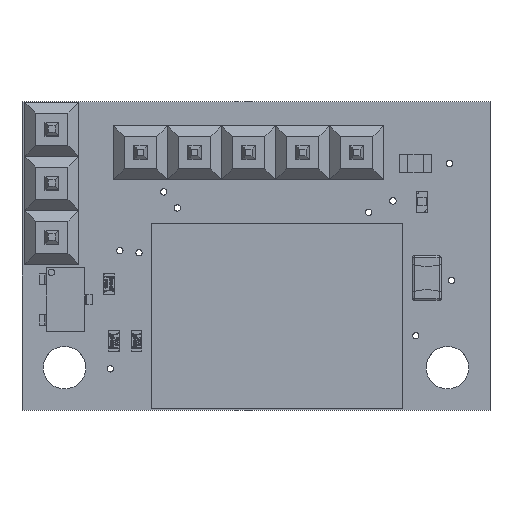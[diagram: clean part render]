
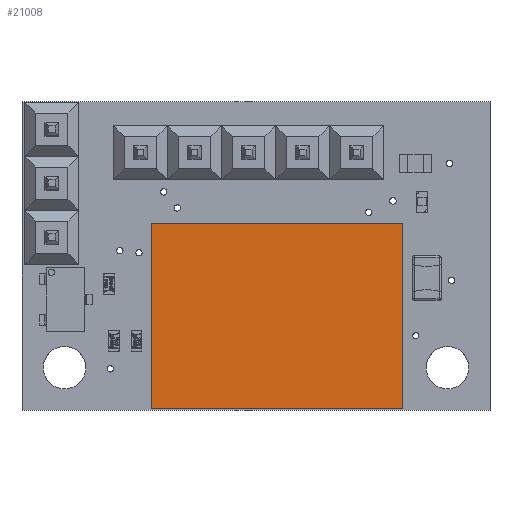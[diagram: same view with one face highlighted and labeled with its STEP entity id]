
A CAD part, top view. The second image highlights one B-rep face of the part: STEP entity #21008.
In plain terms, the highlighted planar face has unit normal (0, 0, 1).
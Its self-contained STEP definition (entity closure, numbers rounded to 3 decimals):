
#812=PLANE('',#22615);
#1702=FACE_OUTER_BOUND('',#2954,.T.);
#2954=EDGE_LOOP('',(#14741,#14742,#14743,#14744));
#4192=LINE('',#31647,#6236);
#4195=LINE('',#31653,#6239);
#4198=LINE('',#31659,#6242);
#4201=LINE('',#31663,#6245);
#6236=VECTOR('',#25104,10.);
#6239=VECTOR('',#25109,10.);
#6242=VECTOR('',#25114,10.);
#6245=VECTOR('',#25119,10.);
#9058=VERTEX_POINT('',#31644);
#9059=VERTEX_POINT('',#31646);
#9061=VERTEX_POINT('',#31652);
#9063=VERTEX_POINT('',#31658);
#11160=EDGE_CURVE('',#9059,#9058,#4192,.T.);
#11163=EDGE_CURVE('',#9061,#9059,#4195,.T.);
#11166=EDGE_CURVE('',#9063,#9061,#4198,.T.);
#11169=EDGE_CURVE('',#9058,#9063,#4201,.T.);
#14741=ORIENTED_EDGE('',*,*,#11169,.T.);
#14742=ORIENTED_EDGE('',*,*,#11166,.T.);
#14743=ORIENTED_EDGE('',*,*,#11163,.T.);
#14744=ORIENTED_EDGE('',*,*,#11160,.T.);
#21008=ADVANCED_FACE('',(#1702),#812,.T.);
#22615=AXIS2_PLACEMENT_3D('',#31664,#25120,#25121);
#25104=DIRECTION('',(0.,-1.,0.));
#25109=DIRECTION('',(-1.,0.,0.));
#25114=DIRECTION('',(0.,1.,0.));
#25119=DIRECTION('',(1.,0.,0.));
#25120=DIRECTION('center_axis',(0.,0.,1.));
#25121=DIRECTION('ref_axis',(1.,0.,0.));
#31644=CARTESIAN_POINT('',(-5.9,-4.35,1.));
#31646=CARTESIAN_POINT('',(-5.9,4.35,1.));
#31647=CARTESIAN_POINT('',(-5.9,-4.35,1.));
#31652=CARTESIAN_POINT('',(5.9,4.35,1.));
#31653=CARTESIAN_POINT('',(-5.9,4.35,1.));
#31658=CARTESIAN_POINT('',(5.9,-4.35,1.));
#31659=CARTESIAN_POINT('',(5.9,4.35,1.));
#31663=CARTESIAN_POINT('',(5.9,-4.35,1.));
#31664=CARTESIAN_POINT('Origin',(0.,0.,1.));
